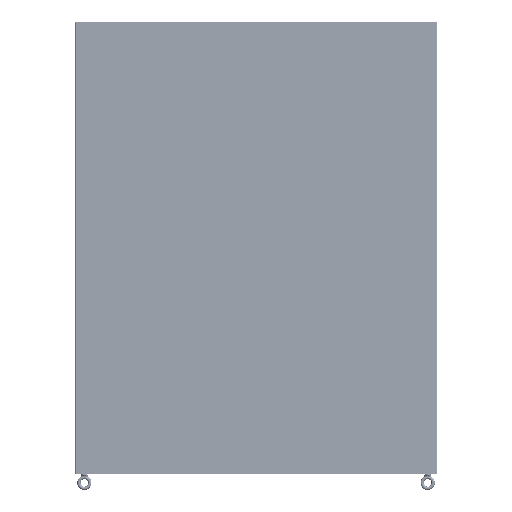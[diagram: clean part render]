
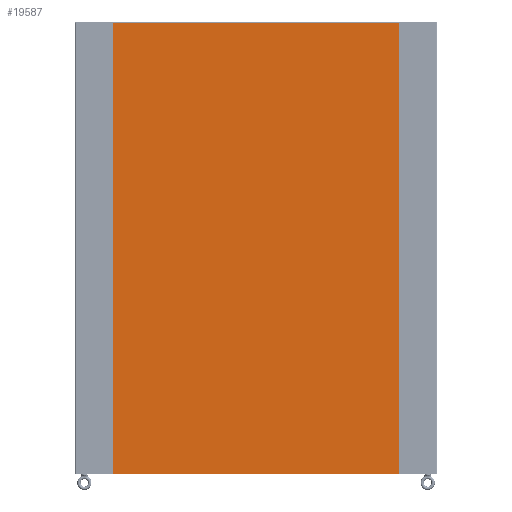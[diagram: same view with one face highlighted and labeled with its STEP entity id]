
A CAD part, left-side view. The second image highlights one B-rep face of the part: STEP entity #19587.
In plain terms, the highlighted planar face has unit normal (-1, 0, 0) as drawn and (0, 0, -1) by its records, which use the part's own axes.
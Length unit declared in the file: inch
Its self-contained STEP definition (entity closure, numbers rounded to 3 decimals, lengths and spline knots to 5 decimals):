
#19168=CARTESIAN_POINT('',(28.4375,44.8335,-0.104));
#19169=DIRECTION('',(0.,0.,-1.));
#19170=DIRECTION('',(0.,1.,0.));
#19171=AXIS2_PLACEMENT_3D('',#19168,#19169,#19170);
#19176=DIRECTION('',(-1.,0.,0.));
#19177=VECTOR('',#19176,56.875);
#19178=CARTESIAN_POINT('',(28.4375,44.896,-0.104));
#19179=LINE('',#19178,#19177);
#19183=CARTESIAN_POINT('',(-28.4375,44.8335,-0.104));
#19184=DIRECTION('',(0.,0.,-1.));
#19185=DIRECTION('',(-1.,0.,0.));
#19186=AXIS2_PLACEMENT_3D('',#19183,#19184,#19185);
#19191=DIRECTION('',(0.,-1.,0.));
#19192=VECTOR('',#19191,89.667);
#19193=CARTESIAN_POINT('',(-28.5,44.8335,-0.104));
#19194=LINE('',#19193,#19192);
#19198=CARTESIAN_POINT('',(-28.4375,-44.8335,-0.104));
#19199=DIRECTION('',(0.,0.,-1.));
#19200=DIRECTION('',(0.,-1.,0.));
#19201=AXIS2_PLACEMENT_3D('',#19198,#19199,#19200);
#19206=DIRECTION('',(1.,0.,0.));
#19207=VECTOR('',#19206,56.875);
#19208=CARTESIAN_POINT('',(-28.4375,-44.896,-0.104));
#19209=LINE('',#19208,#19207);
#19213=CARTESIAN_POINT('',(28.4375,-44.8335,-0.104));
#19214=DIRECTION('',(0.,0.,-1.));
#19215=DIRECTION('',(1.,0.,0.));
#19216=AXIS2_PLACEMENT_3D('',#19213,#19214,#19215);
#19221=DIRECTION('',(0.,1.,0.));
#19222=VECTOR('',#19221,89.667);
#19223=CARTESIAN_POINT('',(28.5,-44.8335,-0.104));
#19224=LINE('',#19223,#19222);
#19352=CARTESIAN_POINT('',(28.4375,44.896,-0.104));
#19353=VERTEX_POINT('',#19352);
#19354=CARTESIAN_POINT('',(28.5,44.8335,-0.104));
#19355=VERTEX_POINT('',#19354);
#19360=CARTESIAN_POINT('',(-28.5,44.8335,-0.104));
#19361=VERTEX_POINT('',#19360);
#19362=CARTESIAN_POINT('',(-28.4375,44.896,-0.104));
#19363=VERTEX_POINT('',#19362);
#19368=CARTESIAN_POINT('',(-28.4375,-44.896,-0.104));
#19369=VERTEX_POINT('',#19368);
#19370=CARTESIAN_POINT('',(-28.5,-44.8335,-0.104));
#19371=VERTEX_POINT('',#19370);
#19376=CARTESIAN_POINT('',(28.5,-44.8335,-0.104));
#19377=VERTEX_POINT('',#19376);
#19378=CARTESIAN_POINT('',(28.4375,-44.896,-0.104));
#19379=VERTEX_POINT('',#19378);
#19572=CARTESIAN_POINT('',(0.,0.,-0.104));
#19573=DIRECTION('',(0.,0.,1.));
#19574=DIRECTION('',(1.,0.,0.));
#19575=AXIS2_PLACEMENT_3D('',#19572,#19573,#19574);
#19576=PLANE('',#19575);
#19577=ORIENTED_EDGE('',*,*,#19468,.F.);
#19578=ORIENTED_EDGE('',*,*,#19484,.T.);
#19579=ORIENTED_EDGE('',*,*,#19497,.F.);
#19580=ORIENTED_EDGE('',*,*,#19512,.T.);
#19581=ORIENTED_EDGE('',*,*,#19525,.F.);
#19582=ORIENTED_EDGE('',*,*,#19540,.T.);
#19583=ORIENTED_EDGE('',*,*,#19553,.F.);
#19584=ORIENTED_EDGE('',*,*,#19565,.T.);
#19585=EDGE_LOOP('',(#19577,#19578,#19579,#19580,#19581,#19582,#19583,#19584));
#19586=FACE_OUTER_BOUND('',#19585,.F.);
#19172=CIRCLE('',#19171,0.0625);
#19187=CIRCLE('',#19186,0.0625);
#19202=CIRCLE('',#19201,0.0625);
#19217=CIRCLE('',#19216,0.0625);
#19468=EDGE_CURVE('',#19353,#19355,#19172,.T.);
#19484=EDGE_CURVE('',#19353,#19363,#19179,.T.);
#19497=EDGE_CURVE('',#19361,#19363,#19187,.T.);
#19512=EDGE_CURVE('',#19361,#19371,#19194,.T.);
#19525=EDGE_CURVE('',#19369,#19371,#19202,.T.);
#19540=EDGE_CURVE('',#19369,#19379,#19209,.T.);
#19553=EDGE_CURVE('',#19377,#19379,#19217,.T.);
#19565=EDGE_CURVE('',#19377,#19355,#19224,.T.);
#19587=ADVANCED_FACE('',(#19586),#19576,.F.);
